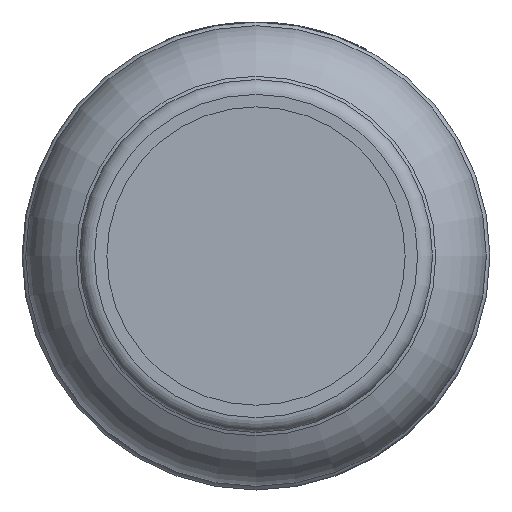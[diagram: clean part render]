
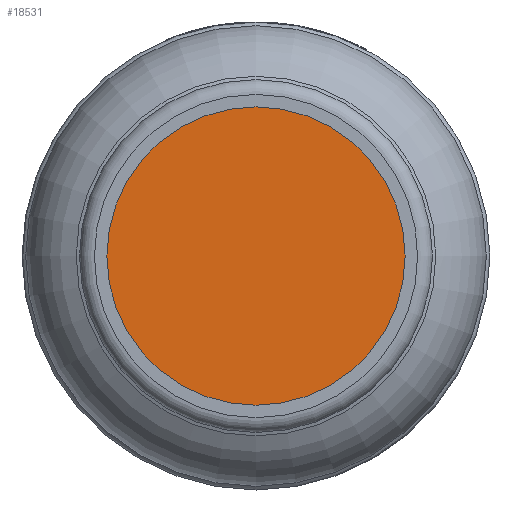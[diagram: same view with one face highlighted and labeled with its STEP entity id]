
A CAD part, front view. The second image highlights one B-rep face of the part: STEP entity #18531.
In plain terms, the highlighted planar face has unit normal (0, -1, 0).
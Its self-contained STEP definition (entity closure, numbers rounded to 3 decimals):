
#565=PLANE('',#19849);
#1246=CIRCLE('',#19850,40.15);
#5388=FACE_OUTER_BOUND('',#6493,.T.);
#6493=EDGE_LOOP('',(#17408));
#9119=VERTEX_POINT('',#39957);
#11889=EDGE_CURVE('',#9119,#9119,#1246,.T.);
#17408=ORIENTED_EDGE('',*,*,#11889,.T.);
#18531=ADVANCED_FACE('',(#5388),#565,.T.);
#19849=AXIS2_PLACEMENT_3D('',#39956,#23806,#23807);
#19850=AXIS2_PLACEMENT_3D('',#39958,#23808,#23809);
#23806=DIRECTION('center_axis',(0.,-1.,0.));
#23807=DIRECTION('ref_axis',(0.,0.,-1.));
#23808=DIRECTION('center_axis',(0.,-1.,0.));
#23809=DIRECTION('ref_axis',(-1.,0.,0.));
#39956=CARTESIAN_POINT('Origin',(-20.075,-215.445,0.));
#39957=CARTESIAN_POINT('',(-40.15,-215.445,0.));
#39958=CARTESIAN_POINT('Origin',(0.,-215.445,
0.));
